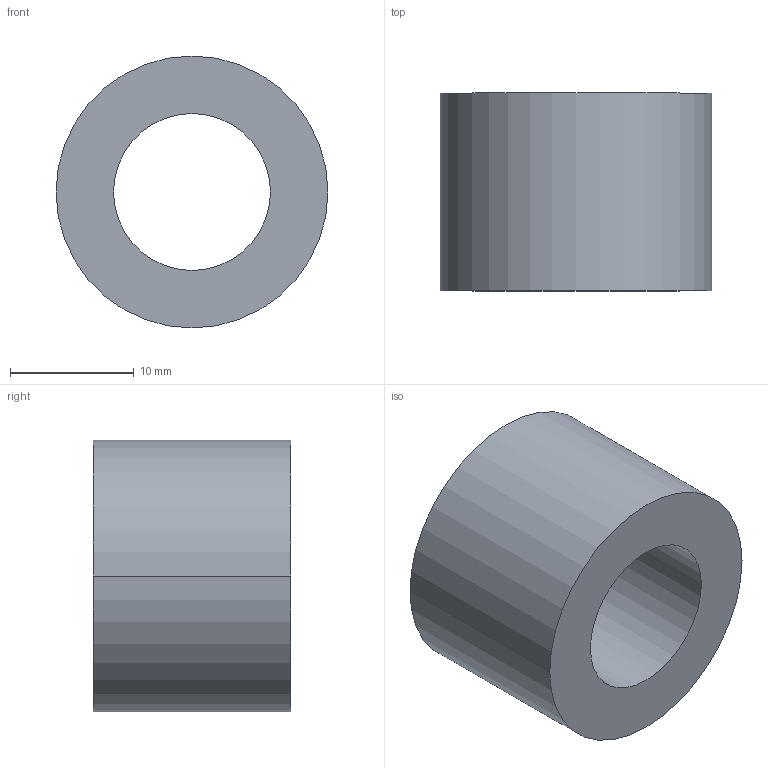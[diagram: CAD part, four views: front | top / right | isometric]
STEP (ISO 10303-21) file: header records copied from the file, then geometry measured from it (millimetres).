
FILE_DESCRIPTION (( 'STEP AP203' ), '1' );
FILE_NAME ('30800.WPP22F12.7.step', '2019-01-23T22:40:00', ( '' ), ( '' ), 'SwSTEP 2.0', 'SolidWorks 2017', '' );
FILE_SCHEMA (( 'CONFIG_CONTROL_DESIGN' ));
Length unit declared in the file: millimetre
Products named in the file (1): 30800.WPP22F12.7
Bounding box: 22 x 16 x 22 mm (x, y, z)
Volume: 4018.6 mm3; surface area: 2218.7 mm2
Topology: 1 solids, 1 shells, 8 faces, 16 edges, 10 vertices
Faces by surface type: cylinder 4, torus 2, plane 2
Entity records: 297 total; most frequent: DIRECTION 46, CARTESIAN_POINT 35, ORIENTED_EDGE 32, AXIS2_PLACEMENT_3D 21, EDGE_CURVE 16, CIRCLE 12, VERTEX_POINT 10, EDGE_LOOP 10
